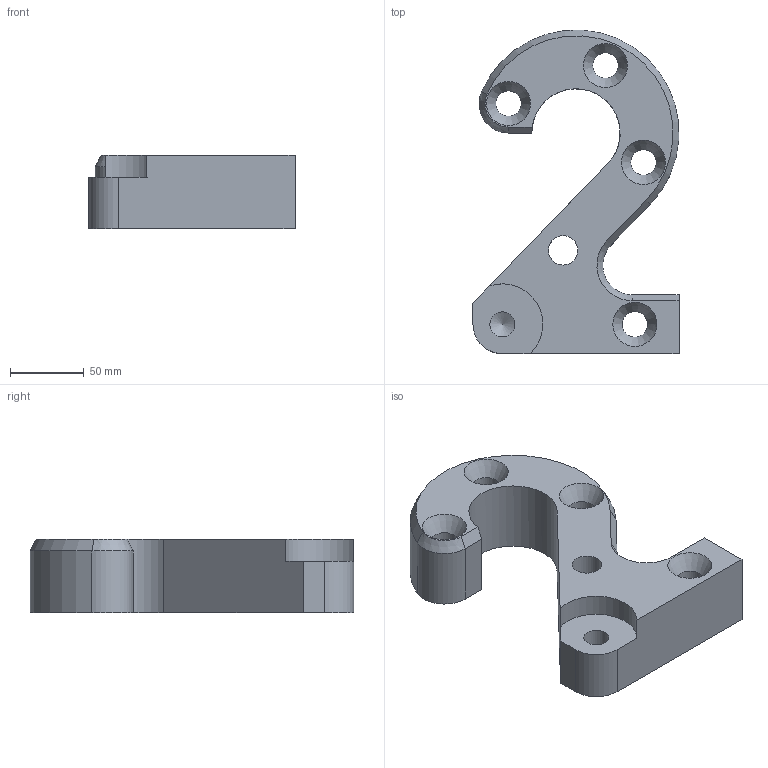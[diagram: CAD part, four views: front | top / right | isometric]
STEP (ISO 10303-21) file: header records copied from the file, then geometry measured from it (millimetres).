
FILE_DESCRIPTION((''),'2;1');
FILE_NAME('C:\R2012-MP\Obszar roboczy\FUSION\F1-Część-STEP.stp','2011-07-01T15:34:14',('AndJas'),(''),'Autodesk Inventor 2012','Autodesk Inventor 2012','');
FILE_SCHEMA(('AUTOMOTIVE_DESIGN { 1 0 10303 214 1 1 1 1 }'));
Length unit declared in the file: millimetre
Products named in the file (1): 5-Model-Edycja
Bounding box: 140 x 219.85 x 50 mm (x, y, z)
Volume: 776788.5 mm3; surface area: 90483.7 mm2
Topology: 1 solids, 1 shells, 33 faces, 90 edges, 59 vertices
Faces by surface type: plane 13, cylinder 12, cone 8
Full cylindrical faces by diameter (mm): 17 x1, 17.4 x4, 20 x1
Entity records: 985 total; most frequent: DIRECTION 173, CARTESIAN_POINT 158, ORIENTED_EDGE 144, EDGE_CURVE 72, AXIS2_PLACEMENT_3D 67, EDGE_LOOP 56, VERTEX_POINT 52, VECTOR 39
